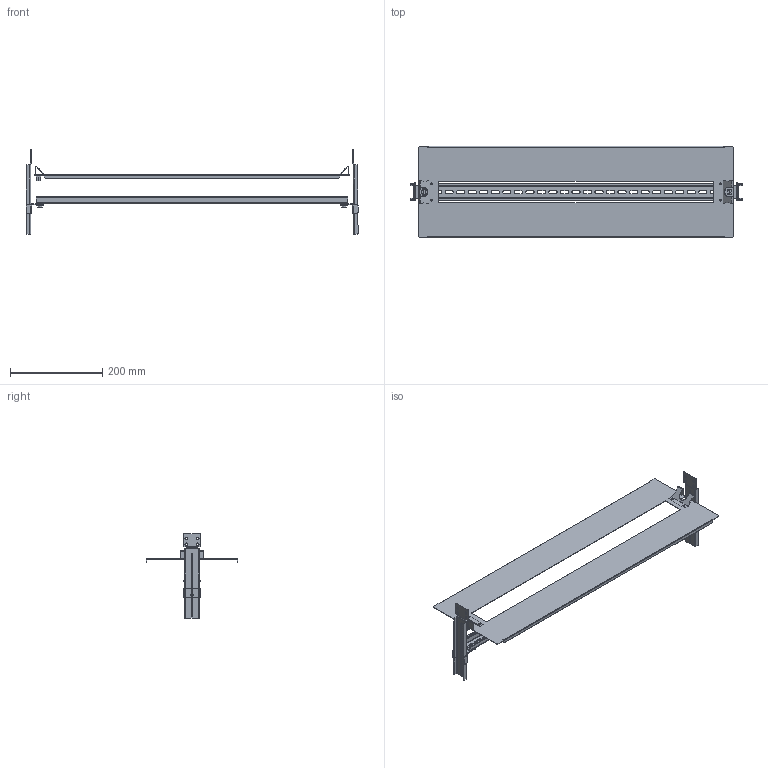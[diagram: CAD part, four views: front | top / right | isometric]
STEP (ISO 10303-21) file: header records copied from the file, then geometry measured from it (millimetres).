
FILE_DESCRIPTION(('CAx-IF Rec.Pracs.---Model Styling and Organization---1.2---2011-12-15','CAx-IF Rec.Pracs.---Geometric and Assembly Validation Properties---4.1---2014-06-16','CAx-IF Rec.Pracs.---PMI Polyline Presentation---2.0---2013-05-24'),'2;1');
FILE_NAME('R5PKIB0V82024.stp','2021-05-05T13:50:02+03:00',(''),(''),'STEP Interface 4.4 by CT CoreTechnologie','3D_Evolution4.4 by CT CoreTechnologie','');
FILE_SCHEMA(('AUTOMOTIVE_DESIGN { 1 0 10303 214 1 1 1 1 }'));
Length unit declared in the file: millimetre
Products named in the file (12): R5PKIB0V82024; RB.0589.00.00.0_-00; RB.0585.00.00.1_-00; M6-DIN 6923 (CM100600)_straight; RB.0588.00.00.1 ÑÁ_-03; RB.0392.00.02.0_ª«¨­ç(1); RB.0588.00.01.1_-03; RB.0392.00.02.0_ª«¨­ç(2); RB.0244.00.00.1_R5CPME800R.1; 294-9118.00-00050(1); RB.0376.00.00.0_-00; 294-9118.00-00050(2)
Assembly tree (14 placements, depth 3):
  R5PKIB0V82024
    RB.0589.00.00.0_-00  x2
    RB.0585.00.00.1_-00  x2
    M6-DIN 6923 (CM100600)_straight  x2
    RB.0588.00.00.1 ÑÁ_-03
      RB.0392.00.02.0_ª«¨­ç(1)
      RB.0588.00.01.1_-03
      RB.0392.00.02.0_ª«¨­ç(2)
    RB.0244.00.00.1_R5CPME800R.1
    294-9118.00-00050(1)
      RB.0376.00.00.0_-00
      294-9118.00-00050(2)
Bounding box: 720 x 198 x 182.75 mm (x, y, z)
Surface area: 362571.7 mm2 (no closed solid volume)
Topology: 0 solids, 19 shells, 682 faces, 1831 edges, 1190 vertices
Faces by surface type: plane 329, cylinder 305, bspline 48
Entity records: 17606 total; most frequent: CARTESIAN_POINT 3409, DIRECTION 2877, ORIENTED_EDGE 2802, EDGE_CURVE 1401, AXIS2_PLACEMENT_3D 988, VERTEX_POINT 918, VECTOR 901, LINE 901
